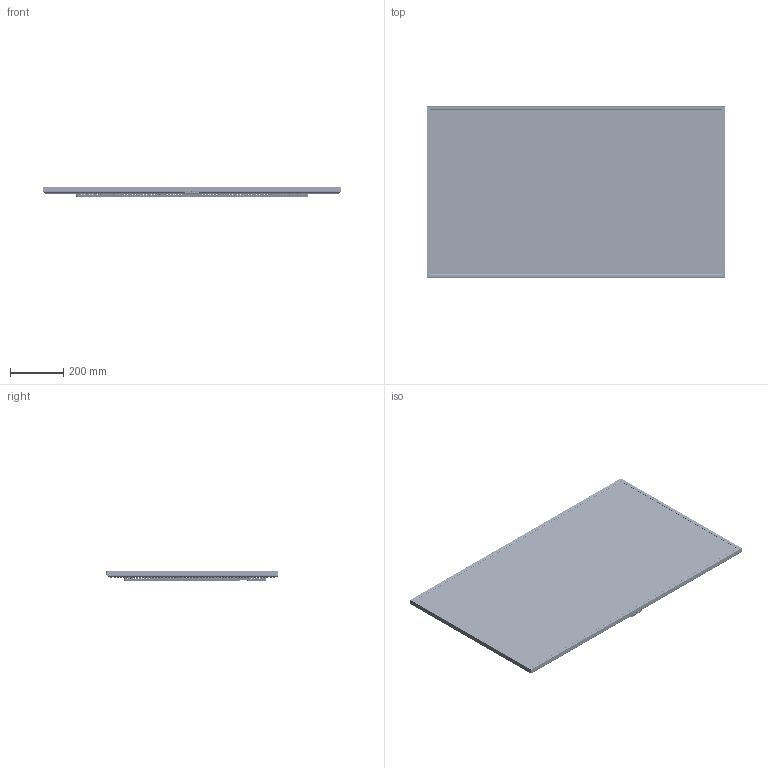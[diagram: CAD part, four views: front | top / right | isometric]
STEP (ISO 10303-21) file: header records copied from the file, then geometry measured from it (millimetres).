
FILE_DESCRIPTION((''),'2;1');
FILE_NAME('00-50DS60_ASM','2023-05-24T',('zhangzhpei'),(''),'CREO PARAMETRIC BY PTC INC, 2014350','CREO PARAMETRIC BY PTC INC, 2014350','');
FILE_SCHEMA(('CONFIG_CONTROL_DESIGN'));
Products named in the file (23): 00-50DS60_SKEL_RNM; FC_55-FPZ6A0-0HJH; 02-FC_ASM; VESA-BRACKET_67-M79982-0G0; 01-LCM_ASM; PCB_BOARD; PCB_MAIN-HDMI-IAF05_19613T1-CGE; PCB_MAIN-USB20_A_HOR_SOCKET-BK_; PCB_MAIN-PHONE_J-TSH3724D3_5_4P; AV_SUPPORT_56-799790-0ULG; PCB_ASSY_ASM; 47-PWS041-DX7_1; 62-660810-0UY; 62-660820-0UY; 47-PWS041-DX7_ASM; 01-SSB_ASM; BC_55-RPZ6A0-0UYH; 01-BC_ASM; IR_SUPPORT_56-799800-0HAG; LENS_56-799810-0HHG; IR_PCB; IR_ASSY_ASM; 00-50DS60_ASM
Assembly tree (28 placements, depth 4):
  00-50DS60_ASM
    00-50DS60_SKEL_RNM
    01-LCM_ASM
      02-FC_ASM
        FC_55-FPZ6A0-0HJH
      VESA-BRACKET_67-M79982-0G0  x4
    01-SSB_ASM
      PCB_ASSY_ASM
        PCB_BOARD
        PCB_MAIN-HDMI-IAF05_19613T1-CGE  x3
        PCB_MAIN-USB20_A_HOR_SOCKET-BK_  x2
        PCB_MAIN-PHONE_J-TSH3724D3_5_4P
        AV_SUPPORT_56-799790-0ULG
      47-PWS041-DX7_ASM
        47-PWS041-DX7_1
        62-660810-0UY
        62-660820-0UY
    01-BC_ASM
      BC_55-RPZ6A0-0UYH
    IR_ASSY_ASM
      IR_SUPPORT_56-799800-0HAG
      LENS_56-799810-0HHG
      IR_PCB
Bounding box: 1125.77 x 646.84 x 41.12 mm (x, y, z)
Volume: 2750475.2 mm3; surface area: 3349105.7 mm2
Topology: 20 solids, 24 shells, 17510 faces, 51487 edges, 33423 vertices
Faces by surface type: plane 13405, cylinder 3542, bspline 305, cone 100, torus 94, extrusion 38, sphere 26
Entity records: 452384 total; most frequent: CARTESIAN_POINT 105813, ORIENTED_EDGE 77552, DIRECTION 64843, EDGE_CURVE 38776, VECTOR 31961, LINE 31923, VERTEX_POINT 25299, AXIS2_PLACEMENT_3D 16441
